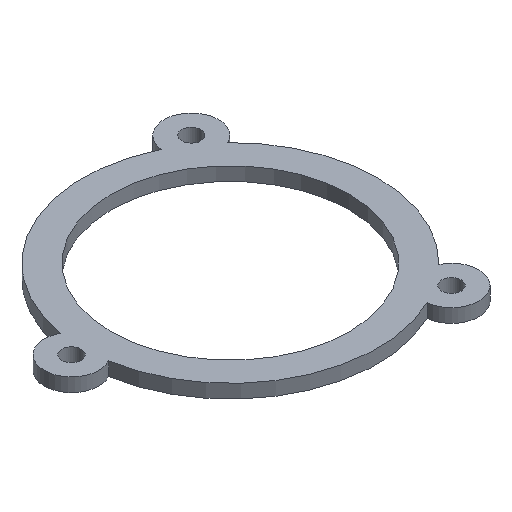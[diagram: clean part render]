
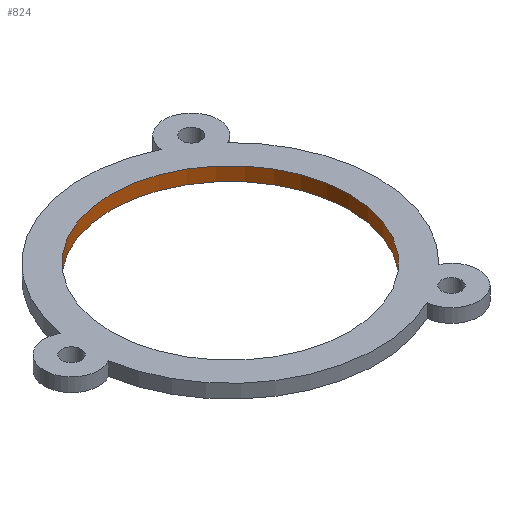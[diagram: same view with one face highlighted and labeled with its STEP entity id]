
A CAD part, isometric view. The second image highlights one B-rep face of the part: STEP entity #824.
In plain terms, the highlighted cylindrical face has radius 21 mm (diameter 42 mm), a full revolution.
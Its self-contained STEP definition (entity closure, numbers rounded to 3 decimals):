
#45 = PLANE('',#46);
#46 = AXIS2_PLACEMENT_3D('',#47,#48,#49);
#47 = CARTESIAN_POINT('',(32.8,27.736,0.));
#48 = DIRECTION('',(0.,0.,1.));
#49 = DIRECTION('',(1.,0.,-0.));
#102 = PLANE('',#103);
#103 = AXIS2_PLACEMENT_3D('',#104,#105,#106);
#104 = CARTESIAN_POINT('',(32.8,27.736,2.4));
#105 = DIRECTION('',(0.,0.,1.));
#106 = DIRECTION('',(1.,0.,-0.));
#326 = EDGE_CURVE('',#327,#327,#329,.T.);
#327 = VERTEX_POINT('',#328);
#328 = CARTESIAN_POINT('',(53.8,27.736,0.));
#329 = SURFACE_CURVE('',#330,(#335,#346),.PCURVE_S1.);
#330 = CIRCLE('',#331,21.);
#331 = AXIS2_PLACEMENT_3D('',#332,#333,#334);
#332 = CARTESIAN_POINT('',(32.8,27.736,0.));
#333 = DIRECTION('',(0.,0.,-1.));
#334 = DIRECTION('',(1.,0.,0.));
#335 = PCURVE('',#45,#336);
#336 = DEFINITIONAL_REPRESENTATION('',(#337),#345);
#337 = ( BOUNDED_CURVE() B_SPLINE_CURVE(2,(#338,#339,#340,#341,#342,#343
,#344),.UNSPECIFIED.,.T.,.F.) B_SPLINE_CURVE_WITH_KNOTS((1,2,2,2,2,1),(
    -2.094,0.,2.094,4.189,6.283,
8.378),.UNSPECIFIED.) CURVE() GEOMETRIC_REPRESENTATION_ITEM() 
RATIONAL_B_SPLINE_CURVE((1.,0.5,1.,0.5,1.,0.5,1.)) REPRESENTATION_ITEM(
  '') );
#338 = CARTESIAN_POINT('',(21.,0.));
#339 = CARTESIAN_POINT('',(21.,-36.373));
#340 = CARTESIAN_POINT('',(-10.5,-18.187));
#341 = CARTESIAN_POINT('',(-42.,0.));
#342 = CARTESIAN_POINT('',(-10.5,18.187));
#343 = CARTESIAN_POINT('',(21.,36.373));
#344 = CARTESIAN_POINT('',(21.,0.));
#345 = ( GEOMETRIC_REPRESENTATION_CONTEXT(2) 
PARAMETRIC_REPRESENTATION_CONTEXT() REPRESENTATION_CONTEXT('2D SPACE',''
  ) );
#346 = PCURVE('',#347,#352);
#347 = CYLINDRICAL_SURFACE('',#348,21.);
#348 = AXIS2_PLACEMENT_3D('',#349,#350,#351);
#349 = CARTESIAN_POINT('',(32.8,27.736,-0.1));
#350 = DIRECTION('',(-0.,-0.,-1.));
#351 = DIRECTION('',(1.,0.,0.));
#352 = DEFINITIONAL_REPRESENTATION('',(#353),#357);
#353 = LINE('',#354,#355);
#354 = CARTESIAN_POINT('',(-6.283,-0.1));
#355 = VECTOR('',#356,1.);
#356 = DIRECTION('',(1.,-0.));
#357 = ( GEOMETRIC_REPRESENTATION_CONTEXT(2) 
PARAMETRIC_REPRESENTATION_CONTEXT() REPRESENTATION_CONTEXT('2D SPACE',''
  ) );
#622 = EDGE_CURVE('',#623,#623,#625,.T.);
#623 = VERTEX_POINT('',#624);
#624 = CARTESIAN_POINT('',(53.8,27.736,2.4));
#625 = SURFACE_CURVE('',#626,(#631,#642),.PCURVE_S1.);
#626 = CIRCLE('',#627,21.);
#627 = AXIS2_PLACEMENT_3D('',#628,#629,#630);
#628 = CARTESIAN_POINT('',(32.8,27.736,2.4));
#629 = DIRECTION('',(0.,0.,-1.));
#630 = DIRECTION('',(1.,0.,0.));
#631 = PCURVE('',#102,#632);
#632 = DEFINITIONAL_REPRESENTATION('',(#633),#641);
#633 = ( BOUNDED_CURVE() B_SPLINE_CURVE(2,(#634,#635,#636,#637,#638,#639
,#640),.UNSPECIFIED.,.T.,.F.) B_SPLINE_CURVE_WITH_KNOTS((1,2,2,2,2,1),(
    -2.094,0.,2.094,4.189,6.283,
8.378),.UNSPECIFIED.) CURVE() GEOMETRIC_REPRESENTATION_ITEM() 
RATIONAL_B_SPLINE_CURVE((1.,0.5,1.,0.5,1.,0.5,1.)) REPRESENTATION_ITEM(
  '') );
#634 = CARTESIAN_POINT('',(21.,0.));
#635 = CARTESIAN_POINT('',(21.,-36.373));
#636 = CARTESIAN_POINT('',(-10.5,-18.187));
#637 = CARTESIAN_POINT('',(-42.,0.));
#638 = CARTESIAN_POINT('',(-10.5,18.187));
#639 = CARTESIAN_POINT('',(21.,36.373));
#640 = CARTESIAN_POINT('',(21.,0.));
#641 = ( GEOMETRIC_REPRESENTATION_CONTEXT(2) 
PARAMETRIC_REPRESENTATION_CONTEXT() REPRESENTATION_CONTEXT('2D SPACE',''
  ) );
#642 = PCURVE('',#347,#643);
#643 = DEFINITIONAL_REPRESENTATION('',(#644),#648);
#644 = LINE('',#645,#646);
#645 = CARTESIAN_POINT('',(-6.283,-2.5));
#646 = VECTOR('',#647,1.);
#647 = DIRECTION('',(1.,-0.));
#648 = ( GEOMETRIC_REPRESENTATION_CONTEXT(2) 
PARAMETRIC_REPRESENTATION_CONTEXT() REPRESENTATION_CONTEXT('2D SPACE',''
  ) );
#824 = ADVANCED_FACE('',(#825),#347,.F.);
#825 = FACE_BOUND('',#826,.T.);
#826 = EDGE_LOOP('',(#827,#828,#849,#850));
#827 = ORIENTED_EDGE('',*,*,#326,.T.);
#828 = ORIENTED_EDGE('',*,*,#829,.T.);
#829 = EDGE_CURVE('',#327,#623,#830,.T.);
#830 = SEAM_CURVE('',#831,(#835,#842),.PCURVE_S1.);
#831 = LINE('',#832,#833);
#832 = CARTESIAN_POINT('',(53.8,27.736,-0.1));
#833 = VECTOR('',#834,1.);
#834 = DIRECTION('',(0.,0.,1.));
#835 = PCURVE('',#347,#836);
#836 = DEFINITIONAL_REPRESENTATION('',(#837),#841);
#837 = LINE('',#838,#839);
#838 = CARTESIAN_POINT('',(-6.283,0.));
#839 = VECTOR('',#840,1.);
#840 = DIRECTION('',(-0.,-1.));
#841 = ( GEOMETRIC_REPRESENTATION_CONTEXT(2) 
PARAMETRIC_REPRESENTATION_CONTEXT() REPRESENTATION_CONTEXT('2D SPACE',''
  ) );
#842 = PCURVE('',#347,#843);
#843 = DEFINITIONAL_REPRESENTATION('',(#844),#848);
#844 = LINE('',#845,#846);
#845 = CARTESIAN_POINT('',(-0.,0.));
#846 = VECTOR('',#847,1.);
#847 = DIRECTION('',(-0.,-1.));
#848 = ( GEOMETRIC_REPRESENTATION_CONTEXT(2) 
PARAMETRIC_REPRESENTATION_CONTEXT() REPRESENTATION_CONTEXT('2D SPACE',''
  ) );
#849 = ORIENTED_EDGE('',*,*,#622,.F.);
#850 = ORIENTED_EDGE('',*,*,#829,.F.);
